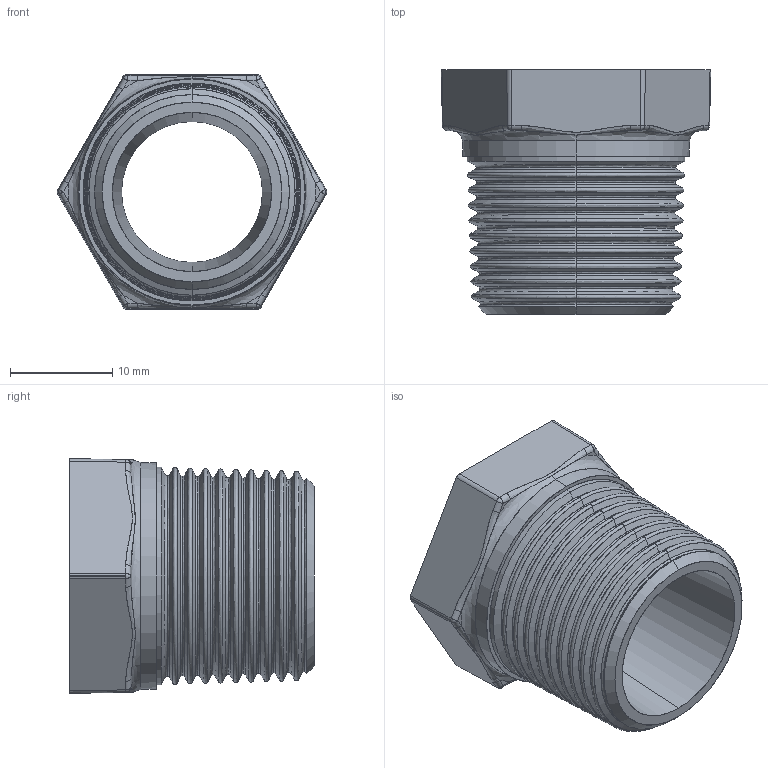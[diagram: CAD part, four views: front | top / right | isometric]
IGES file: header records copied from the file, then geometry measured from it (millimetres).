
Start section: SolidWorks IGES file using analytic representation for surfaces
Global section: file name: C:\Users\Joel Rosa\Desktop\Tubulação\12-01-OK\12-01-026.IGS; native system: SolidWorks 2011; preprocessor: SolidWorks 2011; author: Joel Rosa; date: 121203.194747; units: millimetre
Bounding box: 26.4 x 24 x 23 mm (x, y, z)
Surface area: 4146.7 mm2 (no closed solid volume)
Topology: 0 solids, 0 shells, 205 faces, 1263 edges, 1263 vertices
Faces by surface type: bspline 108, revolution 97
